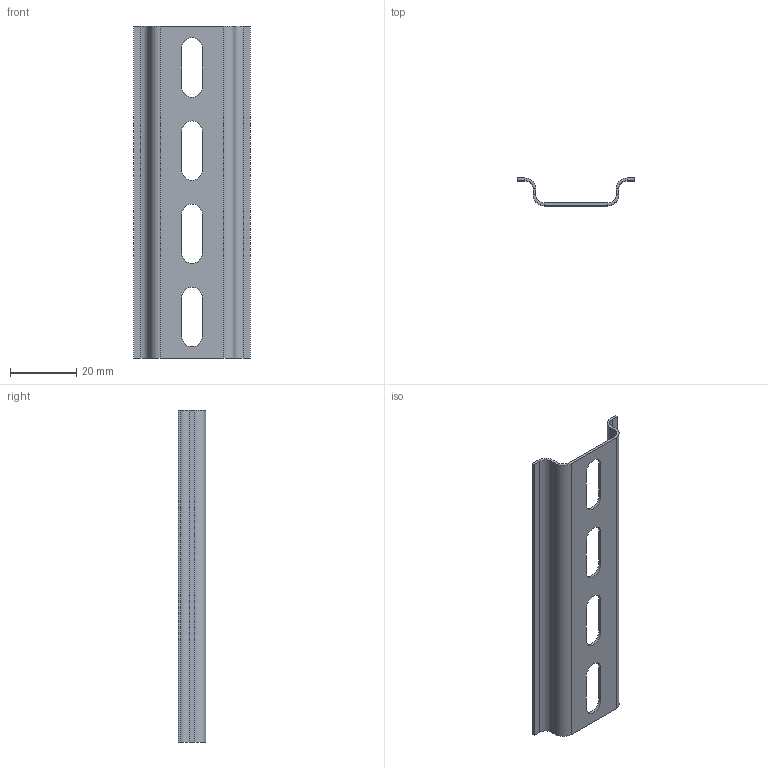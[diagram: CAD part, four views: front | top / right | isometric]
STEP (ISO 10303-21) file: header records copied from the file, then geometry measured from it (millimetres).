
FILE_DESCRIPTION (( 'STEP AP214' ), '1' );
FILE_NAME ('DIN-ðåéêà 100ìì õ 0,8 ìì.STEP', '2025-10-22T12:40:45', ( '' ), ( '' ), 'SwSTEP 2.0', 'SolidWorks 2018', '' );
FILE_SCHEMA (( 'AUTOMOTIVE_DESIGN' ));
Length unit declared in the file: millimetre
Products named in the file (1): DIN-ðåéêà 100ìì õ 0,8 ìì
Bounding box: 35.2 x 8.3 x 100 mm (x, y, z)
Volume: 3291.4 mm3; surface area: 8597.9 mm2
Topology: 1 solids, 1 shells, 58 faces, 136 edges, 80 vertices
Faces by surface type: plane 38, cylinder 20
Entity records: 1674 total; most frequent: DIRECTION 294, CARTESIAN_POINT 275, ORIENTED_EDGE 272, EDGE_CURVE 136, AXIS2_PLACEMENT_3D 99, LINE 96, VECTOR 96, VERTEX_POINT 80
